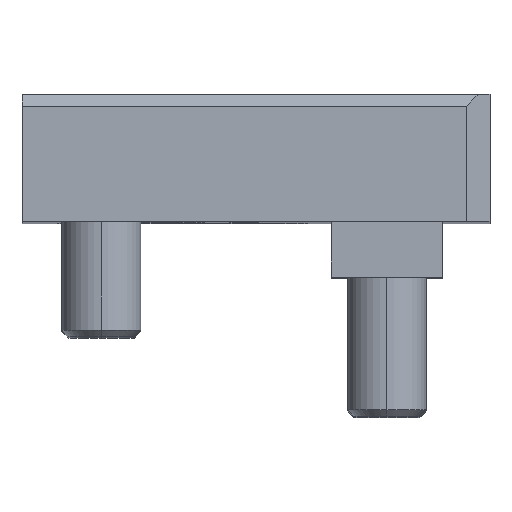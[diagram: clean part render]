
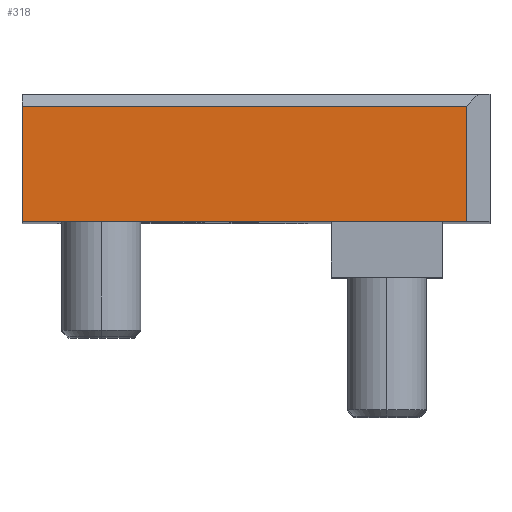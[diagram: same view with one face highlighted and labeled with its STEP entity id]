
A CAD part, top view. The second image highlights one B-rep face of the part: STEP entity #318.
In plain terms, the highlighted planar face has unit normal (0, 0, 1).
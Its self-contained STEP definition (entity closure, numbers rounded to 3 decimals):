
#204 = VERTEX_POINT ( 'NONE', #1875 ) ;
#207 = EDGE_CURVE ( 'NONE', #208, #204, #1873, .T. ) ;
#208 = VERTEX_POINT ( 'NONE', #1869 ) ;
#227 = EDGE_CURVE ( 'NONE', #204, #310, #2110, .T. ) ;
#310 = VERTEX_POINT ( 'NONE', #2217 ) ;
#318 = ADVANCED_FACE ( 'NONE', ( #2175 ), #2174, .F. ) ;
#323 = EDGE_LOOP ( 'NONE', ( #324, #327, #328, #329 ) ) ;
#324 = ORIENTED_EDGE ( 'NONE', *, *, #325, .F. ) ;
#325 = EDGE_CURVE ( 'NONE', #208, #326, #2163, .T. ) ;
#326 = VERTEX_POINT ( 'NONE', #2159 ) ;
#327 = ORIENTED_EDGE ( 'NONE', *, *, #207, .T. ) ;
#328 = ORIENTED_EDGE ( 'NONE', *, *, #227, .T. ) ;
#329 = ORIENTED_EDGE ( 'NONE', *, *, #330, .T. ) ;
#330 = EDGE_CURVE ( 'NONE', #310, #326, #2158, .T. ) ;
#1869 = CARTESIAN_POINT ( 'NONE',  ( 64., 118.5, 82.5 ) ) ;
#1870 = DIRECTION ( 'NONE',  ( -1., 0., 0. ) ) ;
#1871 = VECTOR ( 'NONE', #1870, 1000. ) ;
#1872 = CARTESIAN_POINT ( 'NONE',  ( 8., 118.5, 82.5 ) ) ;
#1873 = LINE ( 'NONE', #1872, #1871 ) ;
#1875 = CARTESIAN_POINT ( 'NONE',  ( 8., 118.5, 82.5 ) ) ;
#2104 = DIRECTION ( 'NONE',  ( 0., -1., 0. ) ) ;
#2105 = VECTOR ( 'NONE', #2104, 1000. ) ;
#2106 = CARTESIAN_POINT ( 'NONE',  ( 8., 120., 82.5 ) ) ;
#2110 = LINE ( 'NONE', #2106, #2105 ) ;
#2155 = DIRECTION ( 'NONE',  ( 1., 0., 0. ) ) ;
#2156 = VECTOR ( 'NONE', #2155, 1000. ) ;
#2157 = CARTESIAN_POINT ( 'NONE',  ( 67., 104., 82.5 ) ) ;
#2158 = LINE ( 'NONE', #2157, #2156 ) ;
#2159 = CARTESIAN_POINT ( 'NONE',  ( 64., 104., 82.5 ) ) ;
#2160 = DIRECTION ( 'NONE',  ( 0., -1., 0. ) ) ;
#2161 = VECTOR ( 'NONE', #2160, 1000. ) ;
#2162 = CARTESIAN_POINT ( 'NONE',  ( 64., 120., 82.5 ) ) ;
#2163 = LINE ( 'NONE', #2162, #2161 ) ;
#2169 = DIRECTION ( 'NONE',  ( -1., 0., 0. ) ) ;
#2170 = DIRECTION ( 'NONE',  ( 0., 0., -1. ) ) ;
#2171 = AXIS2_PLACEMENT_3D ( 'NONE', #2173, #2170, #2169 ) ;
#2173 = CARTESIAN_POINT ( 'NONE',  ( 67., 120., 82.5 ) ) ;
#2174 = PLANE ( 'NONE',  #2171 ) ;
#2175 = FACE_OUTER_BOUND ( 'NONE', #323, .T. ) ;
#2217 = CARTESIAN_POINT ( 'NONE',  ( 8., 104., 82.5 ) ) ;
